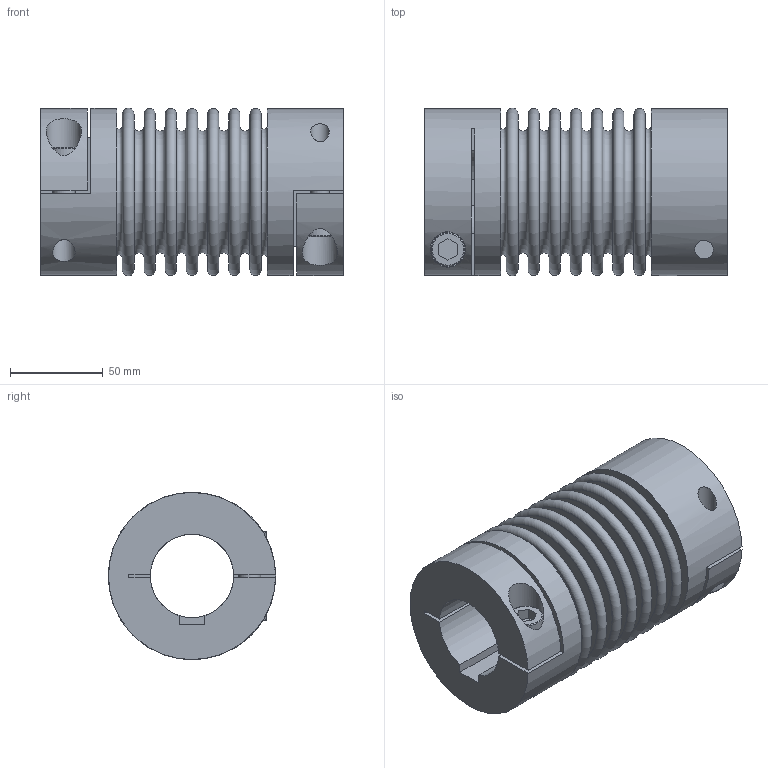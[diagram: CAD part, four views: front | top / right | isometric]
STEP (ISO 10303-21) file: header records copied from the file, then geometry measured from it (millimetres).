
FILE_DESCRIPTION(/* description */ ('STEP AP214'),/* implementation_level */ '2;1');
FILE_NAME(/* name */ 'C:\Diequa Files\DieQua Coupling\Website Step Files\BC.200.163.#.#.stp',/* time_stamp */ '2018-10-25T16:21:04-05:00',/* author */ ('DiequaCAD'),/* organization */ (''),/* preprocessor_version */ 'ST-DEVELOPER v17.2',/* originating_system */ 'Autodesk Inventor 2019',/* authorisation */ ' ');
FILE_SCHEMA (('AUTOMOTIVE_DESIGN { 1 0 10303 214 3 1 1 }'));
Length unit declared in the file: millimetre
Products named in the file (1): BC2.200.163.#.#
Bounding box: 163 x 90.31 x 90.31 mm (x, y, z)
Volume: 381946.7 mm3; surface area: 175804.9 mm2
Topology: 1 solids, 1 shells, 120 faces, 300 edges, 220 vertices
Faces by surface type: plane 74, torus 32, cylinder 14
Full cylindrical faces by diameter (mm): 10 x2, 12 x2, 18 x2, 19 x2, 90 x2
Entity records: 3972 total; most frequent: CARTESIAN_POINT 791, DIRECTION 724, ORIENTED_EDGE 600, AXIS2_PLACEMENT_3D 309, EDGE_CURVE 300, VERTEX_POINT 220, CIRCLE 188, EDGE_LOOP 164
